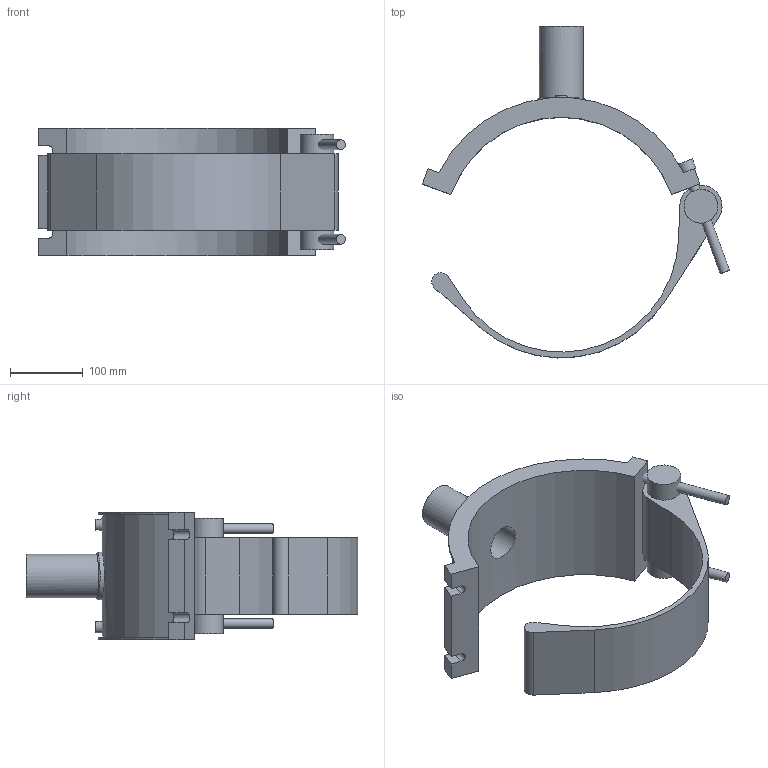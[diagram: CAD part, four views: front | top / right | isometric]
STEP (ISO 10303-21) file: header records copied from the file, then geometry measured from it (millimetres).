
FILE_DESCRIPTION(/* description */ ('PLASSON BRANCH SADDLE 12'''' x 2'''''),/* implementation_level */ '2;1');
FILE_NAME(/* name */ 'C:\Dropbox\KIMPROJECTS-Inventor 2019\99-16-3568-Processing Inch\ASTM ElectroFusion 2021\5958B-2\5958BB03120020.ipt.stp',/* time_stamp */ '2021-08-30T09:53:58+03:00',/* author */ ('KIM'),/* organization */ (''),/* preprocessor_version */ 'ST-DEVELOPER v17.2',/* originating_system */ 'Autodesk Inventor 2019',/* authorisation */ '');
FILE_SCHEMA (('AUTOMOTIVE_DESIGN { 1 0 10303 214 3 1 1 }'));
Length unit declared in the file: inch
Products named in the file (1): 5958BB03120020
Bounding box: 422.89 x 457.15 x 176.02 mm (x, y, z)
Volume: 2875500.4 mm3; surface area: 401926.9 mm2
Topology: 4 solids, 4 shells, 65 faces, 147 edges, 102 vertices
Faces by surface type: plane 37, cylinder 24, cone 3, bspline 1
Full cylindrical faces by diameter (mm): 4 x2, 10 x2, 13.583 x2, 22.638 x2, 46.57 x2, 48.08 x1, 60.1 x1, 66.11 x1
Entity records: 2283 total; most frequent: CARTESIAN_POINT 726, DIRECTION 322, ORIENTED_EDGE 294, EDGE_CURVE 147, AXIS2_PLACEMENT_3D 121, VERTEX_POINT 102, LINE 80, VECTOR 80
